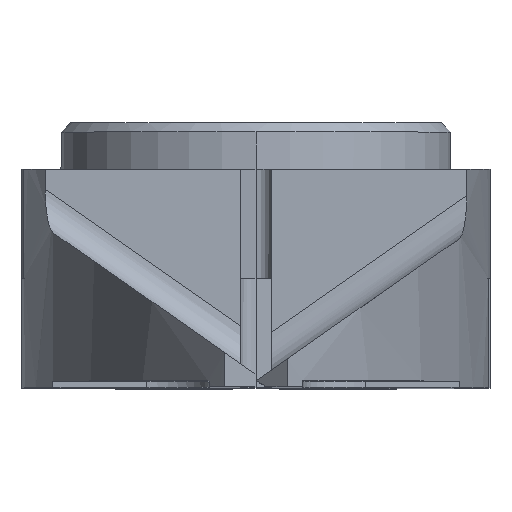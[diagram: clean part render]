
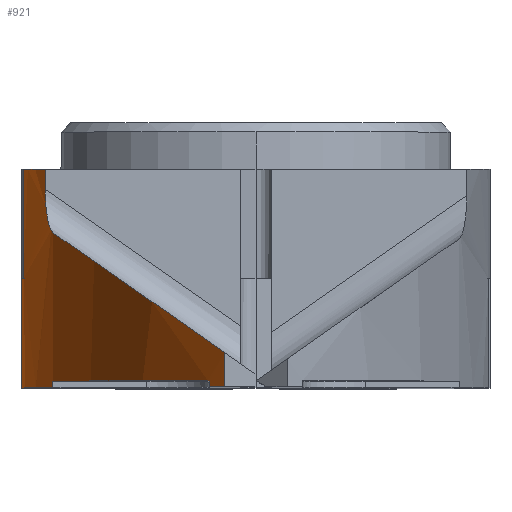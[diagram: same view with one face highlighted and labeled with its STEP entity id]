
A CAD part, top view. The second image highlights one B-rep face of the part: STEP entity #921.
In plain terms, the highlighted cylindrical face has radius 30 mm (diameter 60 mm), a partial arc.
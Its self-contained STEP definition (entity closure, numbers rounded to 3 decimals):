
#64 = CARTESIAN_POINT ( 'NONE',  ( -6.754, 4.47, 10. ) ) ;
#255 = VERTEX_POINT ( 'NONE', #3429 ) ;
#269 = DIRECTION ( 'NONE',  ( 0., -1., 0. ) ) ;
#307 = CARTESIAN_POINT ( 'NONE',  ( -6.509, 3.5, 11. ) ) ;
#315 = CARTESIAN_POINT ( 'NONE',  ( -1.5, 3.5, 21.352 ) ) ;
#339 = VERTEX_POINT ( 'NONE', #1709 ) ;
#394 = B_SPLINE_CURVE_WITH_KNOTS ( 'NONE', 3,
 ( #501, #1983, #848, #4554, #4684, #3524, #1639, #2788 ),
 .UNSPECIFIED., .F., .F.,
 ( 4, 2, 2, 4 ),
 ( 0., 0.001, 0.001, 0.002 ),
 .UNSPECIFIED. ) ;
#411 = CYLINDRICAL_SURFACE ( 'NONE', #2191, 30. ) ;
#467 = CARTESIAN_POINT ( 'NONE',  ( -7.5, 3.5, 3.352 ) ) ;
#501 = CARTESIAN_POINT ( 'NONE',  ( -6.509, 4.957, 11. ) ) ;
#601 = CIRCLE ( 'NONE', #2781, 30. ) ;
#626 = CARTESIAN_POINT ( 'NONE',  ( -1.5, 0.161, 21.352 ) ) ;
#634 = CARTESIAN_POINT ( 'NONE',  ( -5.448, 4.215, 15.022 ) ) ;
#750 = VERTEX_POINT ( 'NONE', #2650 ) ;
#760 = AXIS2_PLACEMENT_3D ( 'NONE', #3784, #1508, #4152 ) ;
#763 = LINE ( 'NONE', #315, #1669 ) ;
#765 = VECTOR ( 'NONE', #2366, 1000. ) ;
#778 = CIRCLE ( 'NONE', #1873, 30. ) ;
#781 = EDGE_CURVE ( 'NONE', #3761, #3928, #4274, .T. ) ;
#818 = EDGE_LOOP ( 'NONE', ( #1786, #1442, #3304, #3685, #2244, #4115, #2694, #3029, #1984, #4810, #2803, #1989, #2314, #1646 ) ) ;
#824 = CARTESIAN_POINT ( 'NONE',  ( -6.509, 4.957, 11. ) ) ;
#840 = EDGE_CURVE ( 'NONE', #1768, #4698, #878, .T. ) ;
#848 = CARTESIAN_POINT ( 'NONE',  ( -6.65, 5.217, 10.443 ) ) ;
#853 = EDGE_CURVE ( 'NONE', #255, #750, #1798, .T. ) ;
#878 = CIRCLE ( 'NONE', #3799, 30. ) ;
#887 = AXIS2_PLACEMENT_3D ( 'NONE', #2559, #269, #2949 ) ;
#921 = ADVANCED_FACE ( 'NONE', ( #1672 ), #411, .T. ) ;
#1027 = DIRECTION ( 'NONE',  ( 0., 1., 0. ) ) ;
#1033 = EDGE_CURVE ( 'NONE', #339, #1441, #2210, .T. ) ;
#1124 = CARTESIAN_POINT ( 'NONE',  ( -6.509, 0.2, 11. ) ) ;
#1203 =( BOUNDED_CURVE ( )  B_SPLINE_CURVE ( 3, ( #4782, #2148, #634, #3315 ),
 .UNSPECIFIED., .F., .T. ) 
 B_SPLINE_CURVE_WITH_KNOTS ( ( 4, 4 ),
 ( 5.612, 6.025 ),
 .UNSPECIFIED. ) 
 CURVE ( )  GEOMETRIC_REPRESENTATION_ITEM ( )  RATIONAL_B_SPLINE_CURVE ( ( 1., 0.986, 0.986, 1. ) ) 
 REPRESENTATION_ITEM ( '' )  );
#1214 = DIRECTION ( 'NONE',  ( 0., -1., 0. ) ) ;
#1272 = CARTESIAN_POINT ( 'NONE',  ( -7.5, 3.5, 3.352 ) ) ;
#1356 = EDGE_CURVE ( 'NONE', #3045, #1441, #394, .T. ) ;
#1360 = LINE ( 'NONE', #307, #3170 ) ;
#1441 = VERTEX_POINT ( 'NONE', #3892 ) ;
#1442 = ORIENTED_EDGE ( 'NONE', *, *, #2785, .T. ) ;
#1508 = DIRECTION ( 'NONE',  ( 0., -1., 0. ) ) ;
#1536 = EDGE_CURVE ( 'NONE', #3656, #3761, #601, .T. ) ;
#1595 = DIRECTION ( 'NONE',  ( 0., 0., 1. ) ) ;
#1604 = DIRECTION ( 'NONE',  ( 0., 1., 0. ) ) ;
#1609 = VERTEX_POINT ( 'NONE', #2297 ) ;
#1639 = CARTESIAN_POINT ( 'NONE',  ( -6.754, 6.193, 10. ) ) ;
#1646 = ORIENTED_EDGE ( 'NONE', *, *, #2908, .F. ) ;
#1669 = VECTOR ( 'NONE', #3726, 1000. ) ;
#1672 = FACE_OUTER_BOUND ( 'NONE', #818, .T. ) ;
#1709 = CARTESIAN_POINT ( 'NONE',  ( -6.754, 7., 10. ) ) ;
#1768 = VERTEX_POINT ( 'NONE', #1124 ) ;
#1786 = ORIENTED_EDGE ( 'NONE', *, *, #853, .T. ) ;
#1798 = LINE ( 'NONE', #2394, #765 ) ;
#1811 = CIRCLE ( 'NONE', #760, 30. ) ;
#1873 = AXIS2_PLACEMENT_3D ( 'NONE', #1875, #4500, #2246 ) ;
#1875 = CARTESIAN_POINT ( 'NONE',  ( 22.5, 0., 3.352 ) ) ;
#1961 = VECTOR ( 'NONE', #1214, 1000. ) ;
#1984 = ORIENTED_EDGE ( 'NONE', *, *, #3502, .F. ) ;
#1983 = CARTESIAN_POINT ( 'NONE',  ( -6.588, 5.013, 10.7 ) ) ;
#1989 = ORIENTED_EDGE ( 'NONE', *, *, #2234, .F. ) ;
#2007 = CARTESIAN_POINT ( 'NONE',  ( 22.5, 0., 3.352 ) ) ;
#2011 = VERTEX_POINT ( 'NONE', #2274 ) ;
#2042 = DIRECTION ( 'NONE',  ( 0., -1., 0. ) ) ;
#2139 = CARTESIAN_POINT ( 'NONE',  ( -1.516, 0.174, 21.331 ) ) ;
#2148 = CARTESIAN_POINT ( 'NONE',  ( -3.586, 2.911, 18.742 ) ) ;
#2191 = AXIS2_PLACEMENT_3D ( 'NONE', #2007, #1604, #1595 ) ;
#2210 = LINE ( 'NONE', #64, #1961 ) ;
#2234 = EDGE_CURVE ( 'NONE', #4276, #4698, #2235, .T. ) ;
#2235 =( BOUNDED_CURVE ( )  B_SPLINE_CURVE ( 3, ( #626, #2139, #4771, #3301 ),
 .UNSPECIFIED., .F., .T. ) 
 B_SPLINE_CURVE_WITH_KNOTS ( ( 4, 4 ),
 ( 5.64, 5.642 ),
 .UNSPECIFIED. ) 
 CURVE ( )  GEOMETRIC_REPRESENTATION_ITEM ( )  RATIONAL_B_SPLINE_CURVE ( ( 1., 1., 1., 1. ) ) 
 REPRESENTATION_ITEM ( '' )  );
#2244 = ORIENTED_EDGE ( 'NONE', *, *, #4352, .T. ) ;
#2246 = DIRECTION ( 'NONE',  ( 0., 0., 1. ) ) ;
#2274 = CARTESIAN_POINT ( 'NONE',  ( -1.5, 0., 21.352 ) ) ;
#2297 = CARTESIAN_POINT ( 'NONE',  ( -7.452, 7., 5.046 ) ) ;
#2314 = ORIENTED_EDGE ( 'NONE', *, *, #4599, .T. ) ;
#2366 = DIRECTION ( 'NONE',  ( 0., 1., 0. ) ) ;
#2394 = CARTESIAN_POINT ( 'NONE',  ( -1., 3.5, 22. ) ) ;
#2515 = VECTOR ( 'NONE', #3191, 1000. ) ;
#2518 = CARTESIAN_POINT ( 'NONE',  ( -6.509, 0., 11. ) ) ;
#2541 = CARTESIAN_POINT ( 'NONE',  ( 22.5, 3.5, 3.352 ) ) ;
#2559 = CARTESIAN_POINT ( 'NONE',  ( 22.5, 7., 3.352 ) ) ;
#2574 = DIRECTION ( 'NONE',  ( 0., -1., 0. ) ) ;
#2610 = DIRECTION ( 'NONE',  ( 0., 0., 1. ) ) ;
#2650 = CARTESIAN_POINT ( 'NONE',  ( -1., 1.1, 22. ) ) ;
#2694 = ORIENTED_EDGE ( 'NONE', *, *, #1536, .T. ) ;
#2775 = VERTEX_POINT ( 'NONE', #2518 ) ;
#2781 = AXIS2_PLACEMENT_3D ( 'NONE', #2541, #2574, #2610 ) ;
#2785 = EDGE_CURVE ( 'NONE', #750, #3045, #1203, .T. ) ;
#2788 = CARTESIAN_POINT ( 'NONE',  ( -6.754, 6.35, 10. ) ) ;
#2803 = ORIENTED_EDGE ( 'NONE', *, *, #840, .T. ) ;
#2868 = DIRECTION ( 'NONE',  ( 0., 1., 0. ) ) ;
#2908 = EDGE_CURVE ( 'NONE', #255, #2011, #1811, .T. ) ;
#2949 = DIRECTION ( 'NONE',  ( 0., 0., 1. ) ) ;
#2981 = DIRECTION ( 'NONE',  ( 0., 0., 1. ) ) ;
#3029 = ORIENTED_EDGE ( 'NONE', *, *, #781, .T. ) ;
#3045 = VERTEX_POINT ( 'NONE', #824 ) ;
#3092 = CARTESIAN_POINT ( 'NONE',  ( 22.5, 0.2, 3.352 ) ) ;
#3107 = LINE ( 'NONE', #4297, #4319 ) ;
#3170 = VECTOR ( 'NONE', #1027, 1000. ) ;
#3191 = DIRECTION ( 'NONE',  ( 0., -1., 0. ) ) ;
#3301 = CARTESIAN_POINT ( 'NONE',  ( -1.547, 0.2, 21.289 ) ) ;
#3304 = ORIENTED_EDGE ( 'NONE', *, *, #1356, .T. ) ;
#3315 = CARTESIAN_POINT ( 'NONE',  ( -6.509, 4.957, 11. ) ) ;
#3356 = CARTESIAN_POINT ( 'NONE',  ( -7.5, 0., 3.352 ) ) ;
#3429 = CARTESIAN_POINT ( 'NONE',  ( -1., 0., 22. ) ) ;
#3502 = EDGE_CURVE ( 'NONE', #2775, #3928, #778, .T. ) ;
#3521 = CIRCLE ( 'NONE', #887, 30. ) ;
#3524 = CARTESIAN_POINT ( 'NONE',  ( -6.749, 6.037, 10.025 ) ) ;
#3656 = VERTEX_POINT ( 'NONE', #3899 ) ;
#3685 = ORIENTED_EDGE ( 'NONE', *, *, #1033, .F. ) ;
#3726 = DIRECTION ( 'NONE',  ( 0., -1., 0. ) ) ;
#3761 = VERTEX_POINT ( 'NONE', #1272 ) ;
#3784 = CARTESIAN_POINT ( 'NONE',  ( 22.5, 0., 3.352 ) ) ;
#3799 = AXIS2_PLACEMENT_3D ( 'NONE', #3092, #2868, #2981 ) ;
#3852 = CARTESIAN_POINT ( 'NONE',  ( -1.547, 0.2, 21.289 ) ) ;
#3892 = CARTESIAN_POINT ( 'NONE',  ( -6.754, 6.35, 10. ) ) ;
#3899 = CARTESIAN_POINT ( 'NONE',  ( -7.452, 3.5, 5.046 ) ) ;
#3928 = VERTEX_POINT ( 'NONE', #3356 ) ;
#3954 = CARTESIAN_POINT ( 'NONE',  ( -1.5, 0.161, 21.352 ) ) ;
#4115 = ORIENTED_EDGE ( 'NONE', *, *, #4747, .T. ) ;
#4152 = DIRECTION ( 'NONE',  ( 0., 0., 1. ) ) ;
#4274 = LINE ( 'NONE', #467, #2515 ) ;
#4276 = VERTEX_POINT ( 'NONE', #3954 ) ;
#4297 = CARTESIAN_POINT ( 'NONE',  ( -7.452, 3.5, 5.046 ) ) ;
#4319 = VECTOR ( 'NONE', #2042, 1000. ) ;
#4352 = EDGE_CURVE ( 'NONE', #339, #1609, #3521, .T. ) ;
#4431 = EDGE_CURVE ( 'NONE', #2775, #1768, #1360, .T. ) ;
#4500 = DIRECTION ( 'NONE',  ( 0., -1., 0. ) ) ;
#4554 = CARTESIAN_POINT ( 'NONE',  ( -6.712, 5.599, 10.183 ) ) ;
#4599 = EDGE_CURVE ( 'NONE', #4276, #2011, #763, .T. ) ;
#4684 = CARTESIAN_POINT ( 'NONE',  ( -6.728, 5.742, 10.116 ) ) ;
#4698 = VERTEX_POINT ( 'NONE', #3852 ) ;
#4747 = EDGE_CURVE ( 'NONE', #1609, #3656, #3107, .T. ) ;
#4771 = CARTESIAN_POINT ( 'NONE',  ( -1.531, 0.187, 21.31 ) ) ;
#4782 = CARTESIAN_POINT ( 'NONE',  ( -1., 1.1, 22. ) ) ;
#4810 = ORIENTED_EDGE ( 'NONE', *, *, #4431, .T. ) ;
